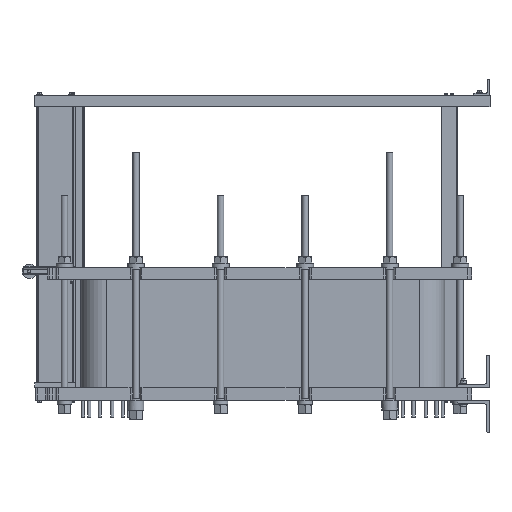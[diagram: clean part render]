
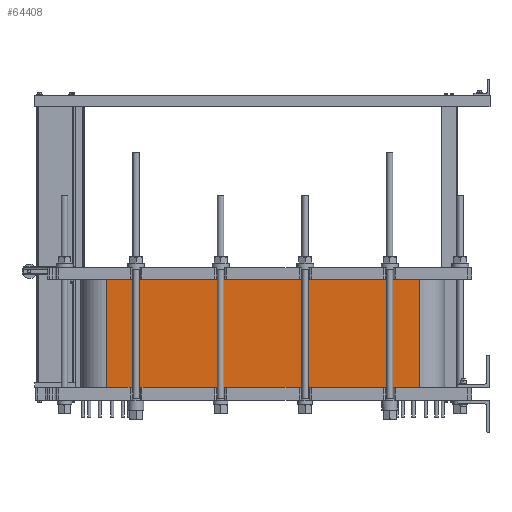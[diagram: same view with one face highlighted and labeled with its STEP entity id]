
A CAD part, left-side view. The second image highlights one B-rep face of the part: STEP entity #64408.
In plain terms, the highlighted planar face has unit normal (-1, 0, 0).
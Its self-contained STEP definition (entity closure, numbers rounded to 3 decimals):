
#35049=CARTESIAN_POINT('',(-375.0,-967.0,0.0));
#35050=VERTEX_POINT('',#35049);
#35058=CARTESIAN_POINT('',(-375.,967.0,0.0));
#35059=VERTEX_POINT('',#35058);
#35060=CARTESIAN_POINT('',(-375.0,-967.0,0.0));
#35061=DIRECTION('',(0.0,1.0,0.0));
#35062=VECTOR('',#35061,1934.0);
#35063=LINE('',#35060,#35062);
#35064=EDGE_CURVE('',#35050,#35059,#35063,.T.);
#64323=CARTESIAN_POINT('',(-375.,967.0,670.0));
#64324=VERTEX_POINT('',#64323);
#64334=CARTESIAN_POINT('',(-375.,967.0,0.0));
#64335=DIRECTION('',(0.0,0.0,1.0));
#64336=VECTOR('',#64335,670.0);
#64337=LINE('',#64334,#64336);
#64338=EDGE_CURVE('',#35059,#64324,#64337,.T.);
#64372=CARTESIAN_POINT('',(-375.0,-967.0,670.0));
#64373=VERTEX_POINT('',#64372);
#64381=CARTESIAN_POINT('',(-375.0,-967.0,0.0));
#64382=DIRECTION('',(0.0,0.0,1.0));
#64383=VECTOR('',#64382,670.0);
#64384=LINE('',#64381,#64383);
#64385=EDGE_CURVE('',#35050,#64373,#64384,.T.);
#64392=CARTESIAN_POINT('',(-375.0,-967.0,0.0));
#64393=DIRECTION('',(-1.0,0.0,0.0));
#64394=DIRECTION('',(0.0,0.0,1.0));
#64395=AXIS2_PLACEMENT_3D('',#64392,#64393,#64394);
#64396=PLANE('',#64395);
#64397=CARTESIAN_POINT('',(-375.,967.0,670.0));
#64398=DIRECTION('',(0.0,-1.0,0.0));
#64399=VECTOR('',#64398,1934.0);
#64400=LINE('',#64397,#64399);
#64401=EDGE_CURVE('',#64324,#64373,#64400,.T.);
#64402=ORIENTED_EDGE('',*,*,#64401,.F.);
#64403=ORIENTED_EDGE('',*,*,#64338,.F.);
#64404=ORIENTED_EDGE('',*,*,#35064,.F.);
#64405=ORIENTED_EDGE('',*,*,#64385,.T.);
#64406=EDGE_LOOP('',(#64402,#64403,#64404,#64405));
#64407=FACE_OUTER_BOUND('',#64406,.T.);
#64408=ADVANCED_FACE('',(#64407),#64396,.T.);
